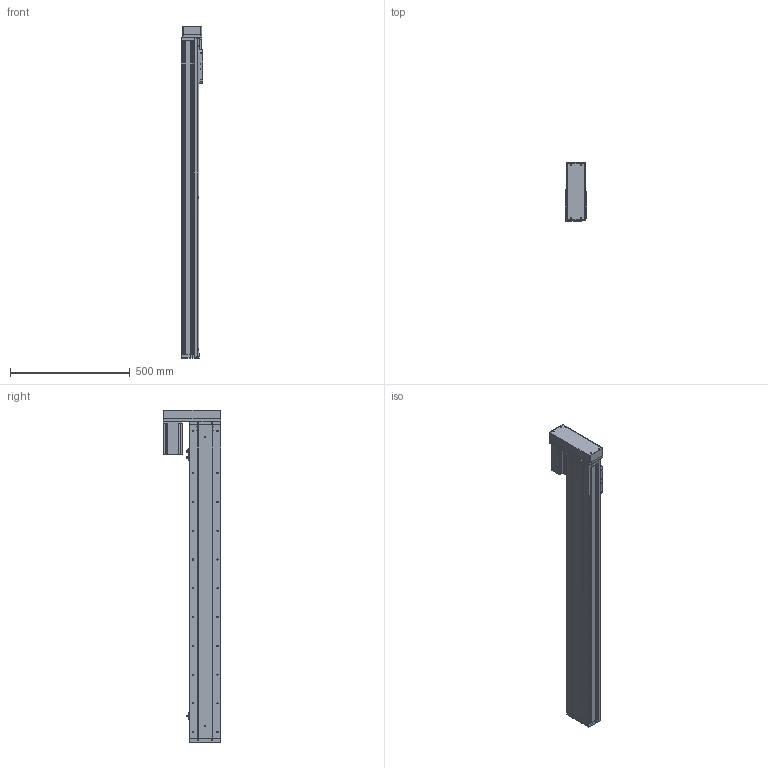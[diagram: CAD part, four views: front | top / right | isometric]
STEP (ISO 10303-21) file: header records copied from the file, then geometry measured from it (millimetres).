
FILE_DESCRIPTION (( 'STEP AP214' ), '1' );
FILE_NAME ('KSD130S-P2010-ML-CR-S1100.STEP', '2019-09-24T06:49:07', ( '微软用户' ), ( '微软中国' ), 'SwSTEP 2.0', 'SolidWorks 2014', '' );
FILE_SCHEMA (( 'AUTOMOTIVE_DESIGN' ));
Length unit declared in the file: millimetre
Products named in the file (14): 130宽全封闭马达安装板丝杠; 130宽全封闭端盖丝杠; 130宽底板全封闭丝杠-1100行程; KSD130S-P2010-ML-CR-S1100; 130宽模组马达安装板连板左右折丝杆; 感应片130宽全封闭; 130宽模组保护罩左右折; U倰嫖萇EEㄜSX672; 130遵裔啣揤啣1; 130宽盖板全封闭-1100行程; 130宽滚珠螺姆安装板1防护罩; 台达ECMA－C20807AS伺服电机; 130宽滚珠螺姆安装板1; 130宽侧板全封闭-1100行程
Assembly tree (17 placements, depth 2):
  KSD130S-P2010-ML-CR-S1100
    130宽底板全封闭丝杠-1100行程
    130宽全封闭端盖丝杠
    130宽全封闭马达安装板丝杠
    130宽侧板全封闭-1100行程  x2
    130宽滚珠螺姆安装板1
    130宽滚珠螺姆安装板1防护罩
    130宽盖板全封闭-1100行程
    130遵裔啣揤啣1  x2
    U倰嫖萇EEㄜSX672  x3
    感应片130宽全封闭
    130宽模组马达安装板连板左右折丝杆
    台达ECMA－C20807AS伺服电机
    130宽模组保护罩左右折
Bounding box: 90 x 240 x 1384.5 mm (x, y, z)
Volume: 4811404.6 mm3; surface area: 1574701.7 mm2
Topology: 18 solids, 18 shells, 1578 faces, 4280 edges, 2667 vertices
Faces by surface type: cylinder 708, plane 611, cone 259
Entity records: 48270 total; most frequent: DIRECTION 7363, CARTESIAN_POINT 7175, ORIENTED_EDGE 6750, EDGE_CURVE 3375, AXIS2_PLACEMENT_3D 2671, VERTEX_POINT 2197, VECTOR 2021, LINE 2021
